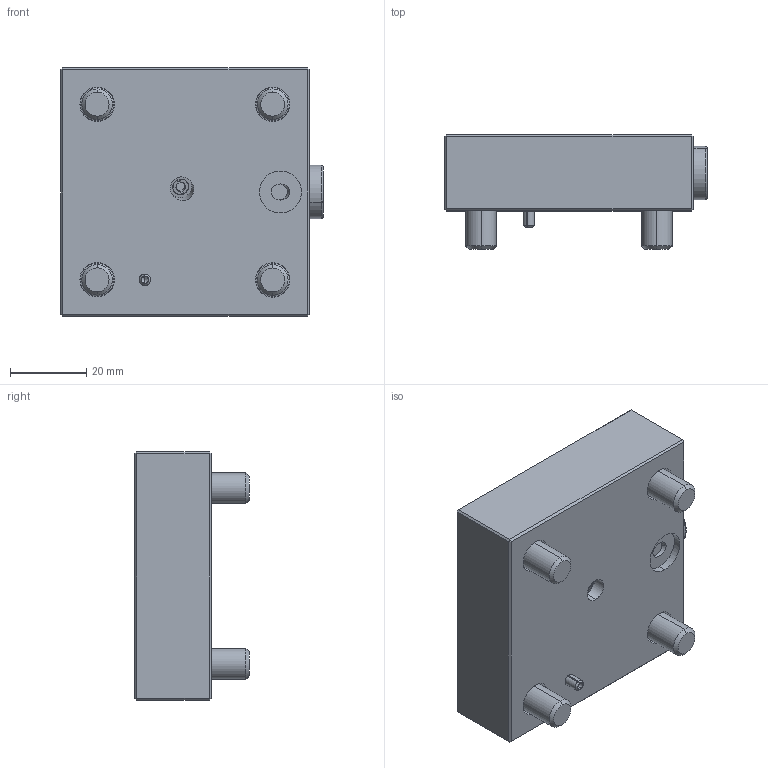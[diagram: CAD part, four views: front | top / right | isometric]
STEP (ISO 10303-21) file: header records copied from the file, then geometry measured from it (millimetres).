
FILE_DESCRIPTION (( 'STEP AP214' ), '1' );
FILE_NAME ('D16...2_2.STEP', '2017-03-17T12:34:38', ( '' ), ( '' ), 'SwSTEP 2.0', 'SolidWorks 2016', '' );
FILE_SCHEMA (( 'AUTOMOTIVE_DESIGN' ));
Length unit declared in the file: millimetre
Products named in the file (1): D16...2_2
Bounding box: 68.7 x 30 x 65 mm (x, y, z)
Volume: 81894 mm3; surface area: 22267.9 mm2
Topology: 7 solids, 8 shells, 258 faces, 576 edges, 343 vertices
Faces by surface type: plane 130, cylinder 74, cone 36, torus 18
Entity records: 9875 total; most frequent: DIRECTION 1280, CARTESIAN_POINT 1211, ORIENTED_EDGE 1116, EDGE_CURVE 558, AXIS2_PLACEMENT_3D 480, VERTEX_POINT 343, VECTOR 320, LINE 320
